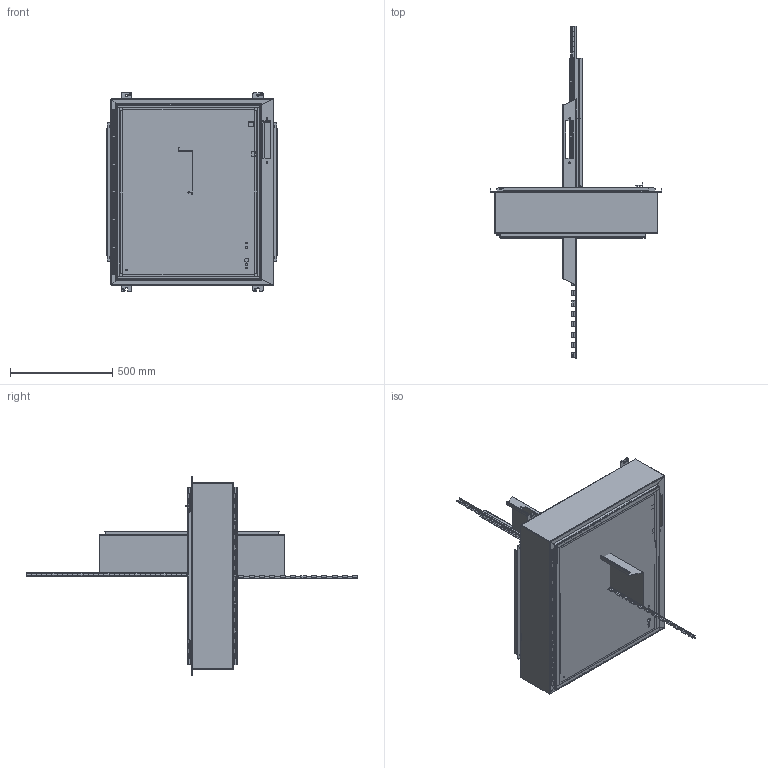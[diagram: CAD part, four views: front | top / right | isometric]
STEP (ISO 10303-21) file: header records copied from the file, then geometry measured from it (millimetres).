
FILE_DESCRIPTION( ( 'Unknown' ), '1' );
FILE_NAME( 's:/TEMPORARY/steps/1447AG8.stp', 'Unknown', ( 'Unknown' ), ( 'Unknown' ), 'PSStep 10.0', 'Unknown', ' ' );
FILE_SCHEMA( ( 'automotive_design' ) );
Length unit declared in the file: millimetre
Products named in the file (20): Assem1; HNG10610-32; AKT90226; COM42746-1; HNG10610-32b; HNG10610-32d; STD21878; COM40581; COM40582; COM55728-100; COM42746; COM55728-74; COM43543; STD26094; FET07710; GSK11033_3631; COM40680; COM43589T; COM55702-2; COM55702-16
Bounding box: 838.2 x 1625.6 x 971.55 mm (x, y, z)
Volume: 14125811 mm3; surface area: 14420814.9 mm2
Topology: 56 solids, 56 shells, 2063 faces, 5538 edges, 3613 vertices
Faces by surface type: plane 1369, cylinder 586, bspline 80, torus 21, cone 7
Full cylindrical faces by diameter (mm): 4.75 x64, 5.08 x64, 6.35 x4, 7.137 x10, 7.938 x9, 8.382 x7, 9.525 x7, 10.312 x6, 11.113 x5, 12.7 x12, 16.51 x7, 19.05 x3
Entity records: 21166 total; most frequent: CARTESIAN_POINT 4910, ORIENTED_EDGE 3266, DIRECTION 3183, EDGE_CURVE 1633, LINE 1191, VECTOR 1191, VERTEX_POINT 1078, AXIS2_PLACEMENT_3D 996
